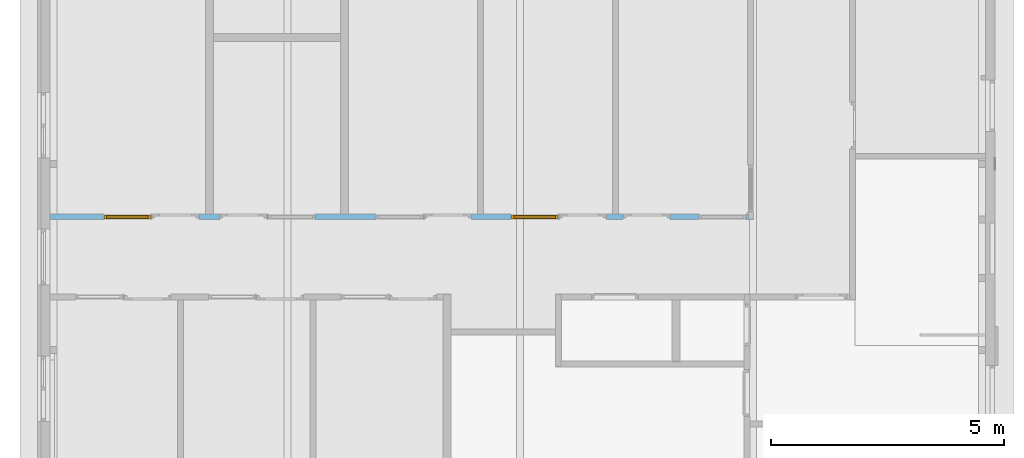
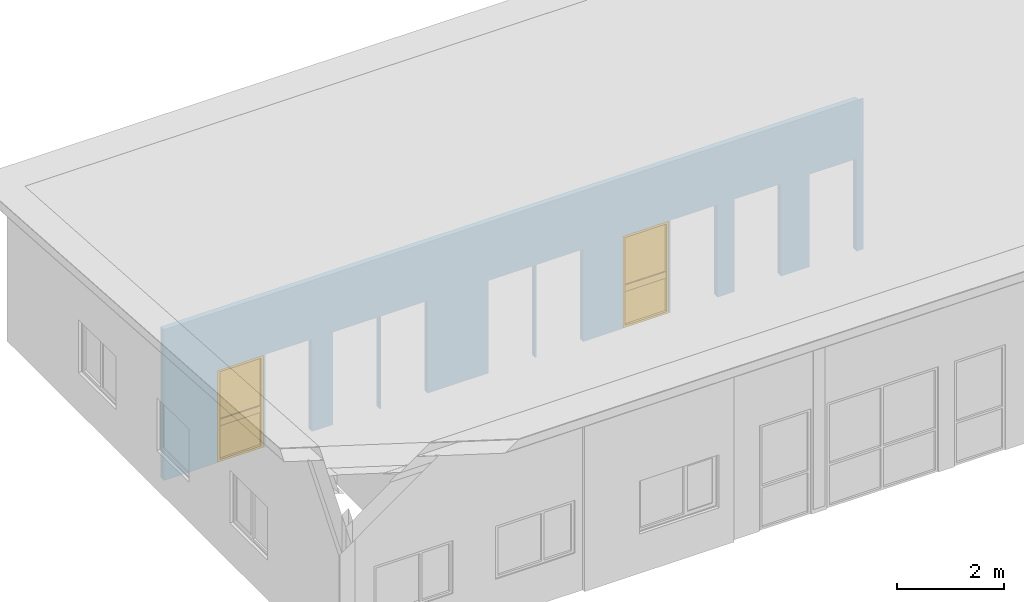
# One storey, part 17 of 37: 2 windows, 10 openings, plus 1 element that does not belong to this part.
"""IFC2X3 building model written with IfcOpenShell, lengths in millimetres."""

import ifcopenshell
import ifcopenshell.guid

model = None  # the IFC model being written
_history = None  # IfcOwnerHistory: only IFC2X3 demands one
_inside = {}  # id of a spatial element -> (the spatial element, [elements in it])
_under = {}  # id of a project, library or spatial element -> (it, [spatial elements below it])
_declared = {}  # id of a project -> (the project, [libraries it declares])
_typed = {}  # id of a type object -> (the type object, [elements of that type])
_made_of = {}  # id of a material, layer set ... -> (it, [elements and type objects made of it])


def new_model(schema):
    """Start an empty IFC model of exactly this schema.

    Asked for "IFC4X3", IfcOpenShell would pick the latest addendum, in which some entities
    have other attributes; the version numbers below select the first issue.
    IFC2X3 requires an IfcOwnerHistory on every rooted entity: one is made here for all.
    """
    global model, _history
    if schema == "IFC4X3":
        model = ifcopenshell.file(schema_version=(4, 3, 0, 0))
    else:
        model = ifcopenshell.file(schema=schema)
    _inside.clear()
    _under.clear()
    _declared.clear()
    _typed.clear()
    _made_of.clear()
    _history = None
    if model.schema == "IFC2X3":
        org = make("IfcOrganization", Name="unknown")
        user = make(
            "IfcPersonAndOrganization",
            ThePerson=make("IfcPerson", FamilyName="unknown"),
            TheOrganization=org,
        )
        app = make(
            "IfcApplication",
            ApplicationDeveloper=org,
            Version="unknown",
            ApplicationFullName="unknown",
            ApplicationIdentifier="unknown",
        )
        _history = make(
            "IfcOwnerHistory",
            OwningUser=user,
            OwningApplication=app,
            ChangeAction="ADDED",
            CreationDate=0,
        )
    return model


def make(cls, **values):
    """One entity of the class cls with the attributes given. An attribute that is None is left unset."""
    return model.create_entity(
        cls, **{name: value for name, value in values.items() if value is not None}
    )


def entity(cls, *values):
    """Any entity or typed value of the class cls, its attributes in the order of the schema. None: left unset."""
    e = model.create_entity(cls)
    for i, value in enumerate(values):
        if value is not None:
            e[i] = value
    return e


def rooted(cls, **values):
    """An entity with a GlobalId (a new one), such as an element, a storey or a relation."""
    return make(cls, GlobalId=ifcopenshell.guid.new(), OwnerHistory=_history, **values)


def si_unit(unit_type, name, prefix=None):
    """IfcSIUnit, for example si_unit("LENGTHUNIT", "METRE", prefix="MILLI")."""
    return make("IfcSIUnit", UnitType=unit_type, Prefix=prefix, Name=name)


def converted_unit(unit_type, name, factor, base, dimensions=None, offset=None):
    """IfcConversionBasedUnit, such as the inch: factor (a typed value) times the base unit."""
    return make(
        "IfcConversionBasedUnit"
        if offset is None
        else "IfcConversionBasedUnitWithOffset",
        ConversionOffset=offset,
        Dimensions=None
        if dimensions is None
        else entity("IfcDimensionalExponents", *dimensions),
        UnitType=unit_type,
        Name=name,
        ConversionFactor=make(
            "IfcMeasureWithUnit", ValueComponent=factor, UnitComponent=base
        ),
    )


def assignment(units):
    """IfcUnitAssignment: the units of a project."""
    return None if units is None else make("IfcUnitAssignment", Units=units)


def point(xyz):
    """IfcCartesianPoint."""
    return None if xyz is None else make("IfcCartesianPoint", Coordinates=xyz)


def direction(xyz):
    """IfcDirection."""
    return None if xyz is None else make("IfcDirection", DirectionRatios=xyz)


def frame(location, z_axis=None, x_axis=None):
    """IfcAxis2Placement3D, a coordinate frame: its origin and axes. An axis left out is left unset."""
    return make(
        "IfcAxis2Placement3D",
        Location=point(location),
        Axis=direction(z_axis),
        RefDirection=direction(x_axis),
    )


def frame_2d(location, x_axis=None):
    """IfcAxis2Placement2D, a coordinate frame in the plane: its origin and x axis."""
    return make(
        "IfcAxis2Placement2D", Location=point(location), RefDirection=direction(x_axis)
    )


def origin():
    """The frame at (0, 0, 0) with its axes left unset."""
    return frame((0.0, 0.0, 0.0))


def origin_with_axes():
    """The frame at (0, 0, 0) with the z axis (0, 0, 1) and the x axis (1, 0, 0) written out."""
    return frame((0.0, 0.0, 0.0), z_axis=(0.0, 0.0, 1.0), x_axis=(1.0, 0.0, 0.0))


def place(relative_to, where):
    """IfcLocalPlacement: puts the frame where relative to a parent placement (None: the world)."""
    return make(
        "IfcLocalPlacement", PlacementRelTo=relative_to, RelativePlacement=where
    )


def context(
    kind, dimensions, precision=None, world=None, true_north=None, identifier=None
):
    """IfcGeometricRepresentationContext, for example the 3D "Model" context."""
    return make(
        "IfcGeometricRepresentationContext",
        ContextIdentifier=identifier,
        ContextType=kind,
        CoordinateSpaceDimension=dimensions,
        Precision=precision,
        WorldCoordinateSystem=world,
        TrueNorth=true_north,
    )


def subcontext(parent, identifier, kind, view, scale=None):
    """IfcGeometricRepresentationSubContext, for example "Body" below "Model"."""
    return make(
        "IfcGeometricRepresentationSubContext",
        ContextIdentifier=identifier,
        ContextType=kind,
        ParentContext=parent,
        TargetScale=scale,
        TargetView=view,
    )


def project(units=None, contexts=None):
    """IfcProject with its units and contexts."""
    return rooted(
        "IfcProject",
        Name="project",
        RepresentationContexts=contexts,
        UnitsInContext=assignment(units),
    )


def spatial(cls, under=None, at=None, **own):
    """A site, building, storey or space (cls), placed at a placement, below another one or the project."""
    s = rooted(cls, ObjectPlacement=at, **own)
    if under is not None:
        _under.setdefault(under.id(), (under, []))[1].append(s)
    return s


def polyline(points):
    """IfcPolyline through the points."""
    return make("IfcPolyline", Points=[point(p) for p in points])


def profile(cls, at=None, kind="AREA", **sizes):
    """A parametric profile (cls). Its sizes go by their IFC names, for example OverallWidth=200.0."""
    return make(cls, ProfileType=kind, Position=at, **sizes)


def rectangle(**sizes):
    """IfcRectangleProfileDef."""
    return profile("IfcRectangleProfileDef", **sizes)


def outline(outer, holes=None, kind="AREA"):
    """IfcArbitraryClosedProfileDef: a profile drawn as a closed curve; with holes, ...WithVoids."""
    if holes is None:
        return make("IfcArbitraryClosedProfileDef", ProfileType=kind, OuterCurve=outer)
    return make(
        "IfcArbitraryProfileDefWithVoids",
        ProfileType=kind,
        OuterCurve=outer,
        InnerCurves=holes,
    )


def extrude(swept, where, along, depth):
    """IfcExtrudedAreaSolid: the profile swept, set in the frame where, extruded along a direction by depth."""
    return make(
        "IfcExtrudedAreaSolid",
        SweptArea=swept,
        Position=where,
        ExtrudedDirection=direction(along),
        Depth=depth,
    )


def clip(a, b, op="DIFFERENCE"):
    """IfcBooleanClippingResult: the solid a cut by the half space b."""
    return make(
        "IfcBooleanClippingResult", Operator=op, FirstOperand=a, SecondOperand=b
    )


def halfspace(plane, agree):
    """IfcHalfSpaceSolid: all space on one side of the plane z = 0 of the frame plane."""
    return make(
        "IfcHalfSpaceSolid",
        BaseSurface=make("IfcPlane", Position=plane),
        AgreementFlag=agree,
    )


def faces_of(points, faces, orient=None, outer=None):
    """IfcFace entities. A face is a list of loops; a loop is a list of indices into points, from 0.

    orient and outer hold one flag for each loop. By default every Orientation is true, the
    first loop of a face is its IfcFaceOuterBound and the others are IfcFaceBound.
    """
    made = []
    for i, loops in enumerate(faces):
        bounds = []
        for j, loop in enumerate(loops):
            is_outer = j == 0 if outer is None else outer[i][j]
            bounds.append(
                make(
                    "IfcFaceOuterBound" if is_outer else "IfcFaceBound",
                    Bound=make("IfcPolyLoop", Polygon=[points[k] for k in loop]),
                    Orientation=True if orient is None else orient[i][j],
                )
            )
        made.append(make("IfcFace", Bounds=bounds))
    return made


def faceted_brep(points, faces, orient=None, outer=None, voids=None):
    """IfcFacetedBrep: a solid bounded by flat faces; with voids (closed shells), ...WithVoids."""
    shared = [point(p) for p in points]
    hull = make("IfcClosedShell", CfsFaces=faces_of(shared, faces, orient, outer))
    if voids is None:
        return make("IfcFacetedBrep", Outer=hull)
    return make(
        "IfcFacetedBrepWithVoids",
        Outer=hull,
        Voids=[
            make(cls, CfsFaces=faces_of(shared, fs, o, b)) for cls, fs, o, b in voids
        ],
    )


def shape(context_of_items, identifier, shape_type, items):
    """IfcShapeRepresentation: the items that make up one representation, for example the "Body"."""
    return make(
        "IfcShapeRepresentation",
        ContextOfItems=context_of_items,
        RepresentationIdentifier=identifier,
        RepresentationType=shape_type,
        Items=items,
    )


def material(Name=None, Category=None):
    """IfcMaterial."""
    return make("IfcMaterial", Name=Name, Category=Category)


def layer(
    of_material, thickness, ventilated=None, Name=None, Category=None, Priority=None
):
    """IfcMaterialLayer: one layer of a wall or slab, of a material (None: an air gap)."""
    return make(
        "IfcMaterialLayer",
        Material=of_material,
        LayerThickness=thickness,
        IsVentilated=ventilated,
        Name=Name,
        Category=Category,
        Priority=Priority,
    )


def layer_set(layers, Name=None):
    """IfcMaterialLayerSet."""
    return make("IfcMaterialLayerSet", MaterialLayers=layers, LayerSetName=Name)


def layer_usage(for_layer_set, set_direction, sense, offset, extent=None):
    """IfcMaterialLayerSetUsage: how a layer set lies in its element."""
    return make(
        "IfcMaterialLayerSetUsage",
        ForLayerSet=for_layer_set,
        LayerSetDirection=set_direction,
        DirectionSense=sense,
        OffsetFromReferenceLine=offset,
        ReferenceExtent=extent,
    )


def made_of(thing, what):
    """Note that an element or type object is made of a material, layer set ...; save() writes the relation."""
    if what is not None:
        _made_of.setdefault(what.id(), (what, []))[1].append(thing)
    return thing


def type_object(cls, material=None, **own):
    """A type object (cls), such as IfcWallType, which elements share."""
    return made_of(rooted(cls, **own), material)


def element(
    cls,
    number,
    at=None,
    inside=None,
    cuts=None,
    type_object=None,
    material=None,
    context=None,
    identifier="Body",
    shape_type=None,
    held_by="IfcProductDefinitionShape",
    body=None,
    shapes=None,
    **own,
):
    """One element of the class cls, such as IfcWall. Its Tag is "e" and its number.

    at: its placement. inside: the storey or other place that contains it. cuts: it is an
    opening in that element (IfcRelVoidsElement). A single representation is given by context,
    identifier, shape_type and body (its items); several are given by shapes. held_by: the class
    of the entity that holds the representations. save() writes the other relations.
    """
    e = rooted(cls, Tag="e%d" % number, ObjectPlacement=at, **own)
    if body is not None:
        shapes = [shape(context, identifier, shape_type, body)]
    if shapes is not None:
        e.Representation = make(held_by, Representations=shapes)
    if inside is not None:
        _inside.setdefault(inside.id(), (inside, []))[1].append(e)
    if cuts is not None:
        rooted(
            "IfcRelVoidsElement", RelatingBuildingElement=cuts, RelatedOpeningElement=e
        )
    if type_object is not None:
        _typed.setdefault(type_object.id(), (type_object, []))[1].append(e)
    return made_of(e, material)


def fill(opening, filler):
    """IfcRelFillsElement: the door or window that sits in an opening."""
    return rooted(
        "IfcRelFillsElement",
        RelatingOpeningElement=opening,
        RelatedBuildingElement=filler,
    )


def aggregate(whole, parts):
    """IfcRelAggregates: a whole, such as a stair, and the parts it consists of."""
    return rooted("IfcRelAggregates", RelatingObject=whole, RelatedObjects=parts)


def save(model, path):
    """Write the relations noted so far, then the file.

    IfcRelAggregates (storeys below a building ...), IfcRelContainedInSpatialStructure (elements
    in a storey), IfcRelDefinesByType, IfcRelAssociatesMaterial and IfcRelDeclares: one each for
    every whole, place, type object, material and project.
    """
    for whole, parts in _under.values():
        aggregate(whole, parts)
    for where, things in _inside.values():
        rooted(
            "IfcRelContainedInSpatialStructure",
            RelatedElements=things,
            RelatingStructure=where,
        )
    for kind, things in _typed.values():
        rooted("IfcRelDefinesByType", RelatedObjects=things, RelatingType=kind)
    for what, things in _made_of.values():
        rooted("IfcRelAssociatesMaterial", RelatedObjects=things, RelatingMaterial=what)
    for by, libraries in _declared.values():
        rooted("IfcRelDeclares", RelatingContext=by, RelatedDefinitions=libraries)
    model.write(path)


model = new_model("IFC2X3")

# Units and contexts
model_context = context("Model", 3, precision=1e-05, world=origin())
plan_context = context("Plan", 3, precision=1e-05, world=origin())
body_context = subcontext(model_context, "Body", "Model", "MODEL_VIEW")
ifc_project = project(units=[si_unit("LENGTHUNIT", "METRE", prefix="MILLI"), converted_unit("PLANEANGLEUNIT", "DEGREE", entity("IfcPlaneAngleMeasure", 0.0174532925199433), si_unit("PLANEANGLEUNIT", "RADIAN"), dimensions=[0, 0, 0, 0, 0, 0, 0]), si_unit("AREAUNIT", "SQUARE_METRE"), si_unit("VOLUMEUNIT", "CUBIC_METRE")], contexts=[model_context, plan_context])

# Building, storey
building_placement = place(None, origin())
building = spatial("IfcBuilding", under=ifc_project, at=building_placement, Name="HEKF Administrasjonbygg", CompositionType="ELEMENT")
storey_placement = place(building_placement, frame((0.0, 0.0, 9900.0), z_axis=(0.0, 0.0, 1.0), x_axis=(1.0, 0.0, 0.0)))
storey = spatial("IfcBuildingStorey", under=building, at=storey_placement, Name="Plan 2", CompositionType="ELEMENT", Elevation=9900.0)

# Wall, openings, windows
ifc_material_1 = material(Name="gips")
ifc_layer_1 = layer(ifc_material_1, 13.0)
ifc_material_2 = material(Name="riegel stål 100")
ifc_layer_2 = layer(ifc_material_2, 100.0)
ifc_material_3 = material(Name="gips")
ifc_layer_3 = layer(ifc_material_3, 13.0)
ifc_layer_set = layer_set([ifc_layer_1, ifc_layer_2, ifc_layer_3])
ifc_layer_usage = layer_usage(ifc_layer_set, "AXIS2", "POSITIVE", 0.0)
wall_placement = place(storey_placement, frame((24887.0, -5075.0, 0.0), z_axis=(0.0, 0.0, 1.0), x_axis=(-1.0, 0.0, 0.0)))
wall = element("IfcWallStandardCase", 1, at=wall_placement, inside=storey, material=ifc_layer_usage, context=body_context, shape_type="Clipping", body=[
    clip(extrude(outline(polyline([(-113.0, 126.0), (-113.0, 113.0), (-13.0, 113.0), (-13.0, 13.0), (0.0, 13.0), (0.0, 0.0), (2774.0, 0.0), (2774.0, 13.0), (2787.0, 13.0), (2787.0, 0.0), (14987.00000000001, 0.0), (14987.00000000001, 126.0), (-113.0, 126.0)])), origin_with_axes(), (0.0, 0.0, 1.0), 3446.733333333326), halfspace(frame((2787.0, 0.0, 3438.333333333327), z_axis=(-9.402241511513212e-18, 0.06651901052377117, -0.9977851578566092), x_axis=(1.0, 0.0, 0.0)), True)),
])
opening_1_placement = place(wall_placement, frame((9293.284477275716, 0.0, 0.0), z_axis=(0.0, 1.0, 0.0), x_axis=(0.0, 0.0, 1.0)))
element("IfcOpeningElement", 2, at=opening_1_placement, cuts=wall, Name="Window opening", ObjectType="Opening", context=body_context, shape_type="SweptSolid", body=[
    extrude(rectangle(XDim=2110.0, YDim=1010.0, at=frame_2d((1055.0, 505.0), x_axis=(1.0, 0.0))), origin_with_axes(), (0.0, 0.0, 1.0), 126.0),
])
opening_2_placement = place(wall_placement, frame((6972.0, 0.0, 0.0), z_axis=(0.0, 1.0, 0.0), x_axis=(0.0, 0.0, 1.0)))
element("IfcOpeningElement", 3, at=opening_2_placement, cuts=wall, Name="Window opening", ObjectType="Opening", context=body_context, shape_type="SweptSolid", body=[
    extrude(rectangle(XDim=2110.0, YDim=1010.0, at=frame_2d((1055.0, 505.0), x_axis=(1.0, 0.0))), origin_with_axes(), (0.0, 0.0, 1.0), 126.0),
])
opening_3_placement = place(wall_placement, frame((12823.28447727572, 0.0, 0.0), z_axis=(0.0, 1.0, 0.0), x_axis=(0.0, 0.0, 1.0)))
opening_3 = element("IfcOpeningElement", 4, at=opening_3_placement, cuts=wall, Name="Window opening", ObjectType="Opening", context=body_context, shape_type="SweptSolid", body=[
    extrude(rectangle(XDim=2110.0, YDim=1010.0, at=frame_2d((1055.0, 505.0), x_axis=(1.0, 0.0))), origin_with_axes(), (0.0, 0.0, 1.0), 126.0),
])
opening_4_placement = place(wall_placement, frame((4072.0, 0.0, 0.0), z_axis=(0.0, 1.0, 0.0), x_axis=(0.0, 0.0, 1.0)))
opening_4 = element("IfcOpeningElement", 5, at=opening_4_placement, cuts=wall, Name="Window opening", ObjectType="Opening", context=body_context, shape_type="SweptSolid", body=[
    extrude(rectangle(XDim=2110.0, YDim=1010.0, at=frame_2d((1055.0, 505.0), x_axis=(1.0, 0.0))), origin_with_axes(), (0.0, 0.0, 1.0), 126.0),
])
opening_5_placement = place(wall_placement, frame((37.0, 0.0, 0.0), z_axis=(0.0, 1.0, 0.0), x_axis=(0.0, 0.0, 1.0)))
element("IfcOpeningElement", 6, at=opening_5_placement, cuts=wall, Name="Window opening", ObjectType="Opening", context=body_context, shape_type="SweptSolid", body=[
    extrude(rectangle(XDim=2110.0, YDim=1010.0, at=frame_2d((1055.0, 505.0), x_axis=(1.0, 0.0))), origin_with_axes(), (0.0, 0.0, 1.0), 126.0),
])
opening_6_placement = place(wall_placement, frame((11788.28447727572, 0.0, 0.0), z_axis=(0.0, 1.0, 0.0), x_axis=(0.0, 0.0, 1.0)))
element("IfcOpeningElement", 7, at=opening_6_placement, cuts=wall, Name="garasjeport med glassfelter:45x6", ObjectType="Opening", context=body_context, shape_type="SweptSolid", body=[
    extrude(rectangle(XDim=2110.0, YDim=1010.0, at=frame_2d((1055.0, 505.0), x_axis=(1.0, 0.0))), origin_with_axes(), (0.0, 0.0, 1.0), 126.0),
])
opening_7_placement = place(wall_placement, frame((10328.28447727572, 0.0, 0.0), z_axis=(0.0, 1.0, 0.0), x_axis=(0.0, 0.0, 1.0)))
element("IfcOpeningElement", 8, at=opening_7_placement, cuts=wall, Name="garasjeport med glassfelter:45x6", ObjectType="Opening", context=body_context, shape_type="SweptSolid", body=[
    extrude(rectangle(XDim=2110.0, YDim=1010.0, at=frame_2d((1055.0, 505.0), x_axis=(1.0, 0.0))), origin_with_axes(), (0.0, 0.0, 1.0), 126.0),
])
opening_8_placement = place(wall_placement, frame((5937.0, 0.0, 0.0), z_axis=(0.0, 1.0, 0.0), x_axis=(0.0, 0.0, 1.0)))
element("IfcOpeningElement", 9, at=opening_8_placement, cuts=wall, Name="garasjeport med glassfelter:45x6", ObjectType="Opening", context=body_context, shape_type="SweptSolid", body=[
    extrude(rectangle(XDim=2110.0, YDim=1010.0, at=frame_2d((1055.0, 505.0), x_axis=(1.0, 0.0))), origin_with_axes(), (0.0, 0.0, 1.0), 126.0),
])
opening_9_placement = place(wall_placement, frame((3037.0, 0.0, 0.0), z_axis=(0.0, 1.0, 0.0), x_axis=(0.0, 0.0, 1.0)))
element("IfcOpeningElement", 10, at=opening_9_placement, cuts=wall, Name="garasjeport med glassfelter:45x6", ObjectType="Opening", context=body_context, shape_type="SweptSolid", body=[
    extrude(rectangle(XDim=2110.0, YDim=1010.0, at=frame_2d((1055.0, 505.0), x_axis=(1.0, 0.0))), origin_with_axes(), (0.0, 0.0, 1.0), 126.0),
])
opening_10_placement = place(wall_placement, frame((1664.0, 0.0, 0.0), z_axis=(0.0, 1.0, 0.0), x_axis=(0.0, 0.0, 1.0)))
element("IfcOpeningElement", 11, at=opening_10_placement, cuts=wall, Name="garasjeport med glassfelter:45x6", ObjectType="Opening", context=body_context, shape_type="SweptSolid", body=[
    extrude(rectangle(XDim=2110.0, YDim=1010.0, at=frame_2d((1055.0, 505.0), x_axis=(1.0, 0.0))), origin_with_axes(), (0.0, 0.0, 1.0), 126.0),
])
ifc_material_4 = material()
window_style_1 = type_object("IfcWindowStyle", Name="IV106", ConstructionType="NOTDEFINED", OperationType="USERDEFINED", ParameterTakesPrecedence=False, Sizeable=False)
window_1_placement = place(opening_3_placement, frame((0.0, 0.0, 0.0), z_axis=(1.0, 0.0, 0.0), x_axis=(0.0, 1.0, 0.0)))
window_1 = element("IfcWindow", 12, at=window_1_placement, inside=storey, type_object=window_style_1, material=ifc_material_4, Name="IV106", OverallHeight=2110.0, OverallWidth=1010.0, context=body_context, shape_type="Brep", body=[
    faceted_brep([(1000.0, 19.99999999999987, 2100.0), (1000.0, 20.0, -2.816687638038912e-15), (950.0, 20.0, -2.816687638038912e-15), (950.0, 19.99999999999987, 2100.0), (1000.0, 112.0, 2.816687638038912e-15), (1000.0, 111.9999999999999, 2100.0), (950.0, 111.9999999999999, 2100.0), (950.0, 112.0, 2.816687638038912e-15), (1000.0, 20.0, -2.816687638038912e-15), (1000.0, 19.99999999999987, 2100.0), (1000.0, 111.9999999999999, 2100.0), (1000.0, 112.0, 2.816687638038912e-15), (950.0, 20.0, -2.816687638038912e-15), (1000.0, 20.0, -2.816687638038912e-15), (1000.0, 112.0, 2.816687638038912e-15), (950.0, 112.0, 2.816687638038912e-15), (950.0, 19.99999999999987, 2100.0), (950.0, 20.0, -2.816687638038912e-15), (950.0, 112.0, 2.816687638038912e-15), (950.0, 111.9999999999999, 2100.0), (1000.0, 19.99999999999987, 2100.0), (950.0, 19.99999999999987, 2100.0), (950.0, 111.9999999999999, 2100.0), (1000.0, 111.9999999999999, 2100.0)], [[[0, 1, 2, 3]], [[4, 5, 6, 7]], [[8, 9, 10, 11]], [[12, 13, 14, 15]], [[16, 17, 18, 19]], [[20, 21, 22, 23]]], orient=[[False], [False], [False], [False], [False], [False]]),
    faceted_brep([(60.0, 19.99999999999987, 2100.0), (60.0, 20.0, -2.816687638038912e-15), (10.0, 20.0, -2.816687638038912e-15), (10.0, 19.99999999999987, 2100.0), (60.0, 112.0, 2.816687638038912e-15), (60.0, 111.9999999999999, 2100.0), (10.0, 111.9999999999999, 2100.0), (10.0, 112.0, 2.816687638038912e-15), (60.0, 20.0, -2.816687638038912e-15), (60.0, 19.99999999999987, 2100.0), (60.0, 111.9999999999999, 2100.0), (60.0, 112.0, 2.816687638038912e-15), (10.0, 20.0, -2.816687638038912e-15), (60.0, 20.0, -2.816687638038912e-15), (60.0, 112.0, 2.816687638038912e-15), (10.0, 112.0, 2.816687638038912e-15), (10.0, 19.99999999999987, 2100.0), (10.0, 20.0, -2.816687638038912e-15), (10.0, 112.0, 2.816687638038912e-15), (10.0, 111.9999999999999, 2100.0), (60.0, 19.99999999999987, 2100.0), (10.0, 19.99999999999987, 2100.0), (10.0, 111.9999999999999, 2100.0), (60.0, 111.9999999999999, 2100.0)], [[[0, 1, 2, 3]], [[4, 5, 6, 7]], [[8, 9, 10, 11]], [[12, 13, 14, 15]], [[16, 17, 18, 19]], [[20, 21, 22, 23]]], orient=[[False], [False], [False], [False], [False], [False]]),
    faceted_brep([(950.0, 20.0, 50.0), (950.0, 20.0, -2.816687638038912e-15), (60.00000000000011, 20.0, -2.816687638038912e-15), (60.00000000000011, 20.0, 50.0), (950.0, 112.0, 2.816687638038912e-15), (950.0, 112.0, 50.00000000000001), (60.00000000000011, 112.0, 50.00000000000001), (60.00000000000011, 112.0, 2.816687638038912e-15), (950.0, 20.0, -2.816687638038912e-15), (950.0, 20.0, 50.0), (950.0, 112.0, 50.00000000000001), (950.0, 112.0, 2.816687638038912e-15), (60.00000000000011, 20.0, -2.816687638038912e-15), (950.0, 20.0, -2.816687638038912e-15), (950.0, 112.0, 2.816687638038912e-15), (60.00000000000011, 112.0, 2.816687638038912e-15), (60.00000000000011, 20.0, 50.0), (60.00000000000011, 20.0, -2.816687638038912e-15), (60.00000000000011, 112.0, 2.816687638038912e-15), (60.00000000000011, 112.0, 50.00000000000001), (950.0, 20.0, 50.0), (60.00000000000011, 20.0, 50.0), (60.00000000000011, 112.0, 50.00000000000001), (950.0, 112.0, 50.00000000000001)], [[[0, 1, 2, 3]], [[4, 5, 6, 7]], [[8, 9, 10, 11]], [[12, 13, 14, 15]], [[16, 17, 18, 19]], [[20, 21, 22, 23]]], orient=[[False], [False], [False], [False], [False], [False]]),
    faceted_brep([(950.0, 19.99999999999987, 2100.000000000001), (950.0, 19.99999999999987, 2050.000000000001), (60.00000000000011, 19.99999999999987, 2050.000000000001), (60.00000000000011, 19.99999999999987, 2100.000000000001), (950.0, 111.9999999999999, 2050.000000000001), (950.0, 111.9999999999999, 2100.000000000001), (60.00000000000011, 111.9999999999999, 2100.000000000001), (60.00000000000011, 111.9999999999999, 2050.000000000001), (950.0, 19.99999999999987, 2050.000000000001), (950.0, 19.99999999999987, 2100.000000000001), (950.0, 111.9999999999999, 2100.000000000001), (950.0, 111.9999999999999, 2050.000000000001), (60.00000000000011, 19.99999999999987, 2050.000000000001), (950.0, 19.99999999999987, 2050.000000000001), (950.0, 111.9999999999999, 2050.000000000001), (60.00000000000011, 111.9999999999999, 2050.000000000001), (60.00000000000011, 19.99999999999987, 2100.000000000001), (60.00000000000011, 19.99999999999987, 2050.000000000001), (60.00000000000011, 111.9999999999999, 2050.000000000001), (60.00000000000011, 111.9999999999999, 2100.000000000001), (950.0, 19.99999999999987, 2100.000000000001), (60.00000000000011, 19.99999999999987, 2100.000000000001), (60.00000000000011, 111.9999999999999, 2100.000000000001), (950.0, 111.9999999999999, 2100.000000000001)], [[[0, 1, 2, 3]], [[4, 5, 6, 7]], [[8, 9, 10, 11]], [[12, 13, 14, 15]], [[16, 17, 18, 19]], [[20, 21, 22, 23]]], orient=[[False], [False], [False], [False], [False], [False]]),
    faceted_brep([(950.0, 40.99999999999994, 950.0), (950.0, 40.99999999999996, 800.0), (60.00000000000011, 40.99999999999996, 800.0), (60.00000000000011, 40.99999999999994, 950.0), (950.0, 90.99999999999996, 800.0), (950.0, 90.99999999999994, 950.0), (60.00000000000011, 90.99999999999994, 950.0), (60.00000000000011, 90.99999999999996, 800.0), (950.0, 40.99999999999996, 800.0), (950.0, 40.99999999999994, 950.0), (950.0, 90.99999999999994, 950.0), (950.0, 90.99999999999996, 800.0), (60.00000000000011, 40.99999999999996, 800.0), (950.0, 40.99999999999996, 800.0), (950.0, 90.99999999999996, 800.0), (60.00000000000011, 90.99999999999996, 800.0), (60.00000000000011, 40.99999999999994, 950.0), (60.00000000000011, 40.99999999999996, 800.0), (60.00000000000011, 90.99999999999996, 800.0), (60.00000000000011, 90.99999999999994, 950.0), (950.0, 40.99999999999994, 950.0), (60.00000000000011, 40.99999999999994, 950.0), (60.00000000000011, 90.99999999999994, 950.0), (950.0, 90.99999999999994, 950.0)], [[[0, 1, 2, 3]], [[4, 5, 6, 7]], [[8, 9, 10, 11]], [[12, 13, 14, 15]], [[16, 17, 18, 19]], [[20, 21, 22, 23]]], orient=[[False], [False], [False], [False], [False], [False]]),
    faceted_brep([(950.0, 66.0, 50.0), (60.00000000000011, 66.0, 50.0), (60.00000000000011, 65.99999999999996, 800.0), (950.0, 65.99999999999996, 800.0), (950.0, 67.0, 50.0), (950.0, 66.99999999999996, 800.0), (60.00000000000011, 66.99999999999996, 800.0), (60.00000000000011, 67.0, 50.0), (950.0, 66.0, 50.0), (950.0, 67.0, 50.0), (60.00000000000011, 67.0, 50.0), (60.00000000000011, 66.0, 50.0), (60.00000000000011, 66.0, 50.0), (60.00000000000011, 67.0, 50.0), (60.00000000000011, 66.99999999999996, 800.0), (60.00000000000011, 65.99999999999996, 800.0), (60.00000000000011, 65.99999999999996, 800.0), (60.00000000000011, 66.99999999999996, 800.0), (950.0, 66.99999999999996, 800.0), (950.0, 65.99999999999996, 800.0), (950.0, 65.99999999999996, 800.0), (950.0, 66.99999999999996, 800.0), (950.0, 67.0, 50.0), (950.0, 66.0, 50.0)], [[[0, 1, 2, 3]], [[4, 5, 6, 7]], [[8, 9, 10, 11]], [[12, 13, 14, 15]], [[16, 17, 18, 19]], [[20, 21, 22, 23]]], orient=[[False], [False], [False], [False], [False], [False]]),
    faceted_brep([(950.0, 65.99999999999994, 950.0000000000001), (60.00000000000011, 65.99999999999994, 950.0000000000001), (60.00000000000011, 65.99999999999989, 2050.000000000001), (950.0, 65.99999999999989, 2050.000000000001), (950.0, 66.99999999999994, 950.0000000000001), (950.0, 66.99999999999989, 2050.000000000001), (60.00000000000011, 66.99999999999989, 2050.000000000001), (60.00000000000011, 66.99999999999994, 950.0000000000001), (950.0, 65.99999999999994, 950.0000000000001), (950.0, 66.99999999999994, 950.0000000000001), (60.00000000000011, 66.99999999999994, 950.0000000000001), (60.00000000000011, 65.99999999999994, 950.0000000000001), (60.00000000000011, 65.99999999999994, 950.0000000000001), (60.00000000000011, 66.99999999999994, 950.0000000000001), (60.00000000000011, 66.99999999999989, 2050.000000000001), (60.00000000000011, 65.99999999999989, 2050.000000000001), (60.00000000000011, 65.99999999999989, 2050.000000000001), (60.00000000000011, 66.99999999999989, 2050.000000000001), (950.0, 66.99999999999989, 2050.000000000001), (950.0, 65.99999999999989, 2050.000000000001), (950.0, 65.99999999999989, 2050.000000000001), (950.0, 66.99999999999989, 2050.000000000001), (950.0, 66.99999999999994, 950.0000000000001), (950.0, 65.99999999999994, 950.0000000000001)], [[[0, 1, 2, 3]], [[4, 5, 6, 7]], [[8, 9, 10, 11]], [[12, 13, 14, 15]], [[16, 17, 18, 19]], [[20, 21, 22, 23]]], orient=[[False], [False], [False], [False], [False], [False]]),
])
fill(opening_3, window_1)
ifc_material_5 = material()
window_style_2 = type_object("IfcWindowStyle", Name="IV103", ConstructionType="NOTDEFINED", OperationType="USERDEFINED", ParameterTakesPrecedence=False, Sizeable=False)
window_2_placement = place(opening_4_placement, frame((0.0, 0.0, 0.0), z_axis=(1.0, 0.0, 0.0), x_axis=(0.0, 1.0, 0.0)))
window_2 = element("IfcWindow", 13, at=window_2_placement, inside=storey, type_object=window_style_2, material=ifc_material_5, Name="IV103", OverallHeight=2110.0, OverallWidth=1010.0, context=body_context, shape_type="Brep", body=[
    faceted_brep([(1000.0, 19.99999999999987, 2100.0), (1000.0, 20.0, -2.816687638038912e-15), (950.0, 20.0, -2.816687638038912e-15), (950.0, 19.99999999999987, 2100.0), (1000.0, 112.0, 2.816687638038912e-15), (1000.0, 111.9999999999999, 2100.0), (950.0, 111.9999999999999, 2100.0), (950.0, 112.0, 2.816687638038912e-15), (1000.0, 20.0, -2.816687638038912e-15), (1000.0, 19.99999999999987, 2100.0), (1000.0, 111.9999999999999, 2100.0), (1000.0, 112.0, 2.816687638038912e-15), (950.0, 20.0, -2.816687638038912e-15), (1000.0, 20.0, -2.816687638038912e-15), (1000.0, 112.0, 2.816687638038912e-15), (950.0, 112.0, 2.816687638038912e-15), (950.0, 19.99999999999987, 2100.0), (950.0, 20.0, -2.816687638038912e-15), (950.0, 112.0, 2.816687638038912e-15), (950.0, 111.9999999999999, 2100.0), (1000.0, 19.99999999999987, 2100.0), (950.0, 19.99999999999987, 2100.0), (950.0, 111.9999999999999, 2100.0), (1000.0, 111.9999999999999, 2100.0)], [[[0, 1, 2, 3]], [[4, 5, 6, 7]], [[8, 9, 10, 11]], [[12, 13, 14, 15]], [[16, 17, 18, 19]], [[20, 21, 22, 23]]], orient=[[False], [False], [False], [False], [False], [False]]),
    faceted_brep([(60.0, 19.99999999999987, 2100.0), (60.0, 20.0, -2.816687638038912e-15), (10.0, 20.0, -2.816687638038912e-15), (10.0, 19.99999999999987, 2100.0), (60.0, 112.0, 2.816687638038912e-15), (60.0, 111.9999999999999, 2100.0), (10.0, 111.9999999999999, 2100.0), (10.0, 112.0, 2.816687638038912e-15), (60.0, 20.0, -2.816687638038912e-15), (60.0, 19.99999999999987, 2100.0), (60.0, 111.9999999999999, 2100.0), (60.0, 112.0, 2.816687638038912e-15), (10.0, 20.0, -2.816687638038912e-15), (60.0, 20.0, -2.816687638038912e-15), (60.0, 112.0, 2.816687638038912e-15), (10.0, 112.0, 2.816687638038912e-15), (10.0, 19.99999999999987, 2100.0), (10.0, 20.0, -2.816687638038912e-15), (10.0, 112.0, 2.816687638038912e-15), (10.0, 111.9999999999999, 2100.0), (60.0, 19.99999999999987, 2100.0), (10.0, 19.99999999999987, 2100.0), (10.0, 111.9999999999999, 2100.0), (60.0, 111.9999999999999, 2100.0)], [[[0, 1, 2, 3]], [[4, 5, 6, 7]], [[8, 9, 10, 11]], [[12, 13, 14, 15]], [[16, 17, 18, 19]], [[20, 21, 22, 23]]], orient=[[False], [False], [False], [False], [False], [False]]),
    faceted_brep([(950.0, 20.0, 50.0), (950.0, 20.0, -2.816687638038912e-15), (60.00000000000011, 20.0, -2.816687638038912e-15), (60.00000000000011, 20.0, 50.0), (950.0, 112.0, 2.816687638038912e-15), (950.0, 112.0, 50.00000000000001), (60.00000000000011, 112.0, 50.00000000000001), (60.00000000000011, 112.0, 2.816687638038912e-15), (950.0, 20.0, -2.816687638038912e-15), (950.0, 20.0, 50.0), (950.0, 112.0, 50.00000000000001), (950.0, 112.0, 2.816687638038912e-15), (60.00000000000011, 20.0, -2.816687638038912e-15), (950.0, 20.0, -2.816687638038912e-15), (950.0, 112.0, 2.816687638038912e-15), (60.00000000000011, 112.0, 2.816687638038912e-15), (60.00000000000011, 20.0, 50.0), (60.00000000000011, 20.0, -2.816687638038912e-15), (60.00000000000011, 112.0, 2.816687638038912e-15), (60.00000000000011, 112.0, 50.00000000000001), (950.0, 20.0, 50.0), (60.00000000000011, 20.0, 50.0), (60.00000000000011, 112.0, 50.00000000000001), (950.0, 112.0, 50.00000000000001)], [[[0, 1, 2, 3]], [[4, 5, 6, 7]], [[8, 9, 10, 11]], [[12, 13, 14, 15]], [[16, 17, 18, 19]], [[20, 21, 22, 23]]], orient=[[False], [False], [False], [False], [False], [False]]),
    faceted_brep([(950.0, 19.99999999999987, 2100.000000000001), (950.0, 19.99999999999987, 2050.000000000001), (60.00000000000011, 19.99999999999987, 2050.000000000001), (60.00000000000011, 19.99999999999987, 2100.000000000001), (950.0, 111.9999999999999, 2050.000000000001), (950.0, 111.9999999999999, 2100.000000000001), (60.00000000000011, 111.9999999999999, 2100.000000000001), (60.00000000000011, 111.9999999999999, 2050.000000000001), (950.0, 19.99999999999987, 2050.000000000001), (950.0, 19.99999999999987, 2100.000000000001), (950.0, 111.9999999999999, 2100.000000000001), (950.0, 111.9999999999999, 2050.000000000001), (60.00000000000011, 19.99999999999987, 2050.000000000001), (950.0, 19.99999999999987, 2050.000000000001), (950.0, 111.9999999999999, 2050.000000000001), (60.00000000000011, 111.9999999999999, 2050.000000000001), (60.00000000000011, 19.99999999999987, 2100.000000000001), (60.00000000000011, 19.99999999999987, 2050.000000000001), (60.00000000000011, 111.9999999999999, 2050.000000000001), (60.00000000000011, 111.9999999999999, 2100.000000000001), (950.0, 19.99999999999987, 2100.000000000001), (60.00000000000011, 19.99999999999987, 2100.000000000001), (60.00000000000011, 111.9999999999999, 2100.000000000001), (950.0, 111.9999999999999, 2100.000000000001)], [[[0, 1, 2, 3]], [[4, 5, 6, 7]], [[8, 9, 10, 11]], [[12, 13, 14, 15]], [[16, 17, 18, 19]], [[20, 21, 22, 23]]], orient=[[False], [False], [False], [False], [False], [False]]),
    faceted_brep([(950.0, 40.99999999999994, 950.0), (950.0, 40.99999999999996, 800.0), (60.00000000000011, 40.99999999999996, 800.0), (60.00000000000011, 40.99999999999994, 950.0), (950.0, 90.99999999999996, 800.0), (950.0, 90.99999999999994, 950.0), (60.00000000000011, 90.99999999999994, 950.0), (60.00000000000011, 90.99999999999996, 800.0), (950.0, 40.99999999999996, 800.0), (950.0, 40.99999999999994, 950.0), (950.0, 90.99999999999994, 950.0), (950.0, 90.99999999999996, 800.0), (60.00000000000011, 40.99999999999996, 800.0), (950.0, 40.99999999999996, 800.0), (950.0, 90.99999999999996, 800.0), (60.00000000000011, 90.99999999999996, 800.0), (60.00000000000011, 40.99999999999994, 950.0), (60.00000000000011, 40.99999999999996, 800.0), (60.00000000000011, 90.99999999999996, 800.0), (60.00000000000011, 90.99999999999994, 950.0), (950.0, 40.99999999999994, 950.0), (60.00000000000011, 40.99999999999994, 950.0), (60.00000000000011, 90.99999999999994, 950.0), (950.0, 90.99999999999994, 950.0)], [[[0, 1, 2, 3]], [[4, 5, 6, 7]], [[8, 9, 10, 11]], [[12, 13, 14, 15]], [[16, 17, 18, 19]], [[20, 21, 22, 23]]], orient=[[False], [False], [False], [False], [False], [False]]),
    faceted_brep([(950.0, 66.0, 50.0), (60.00000000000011, 66.0, 50.0), (60.00000000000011, 65.99999999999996, 800.0), (950.0, 65.99999999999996, 800.0), (950.0, 67.0, 50.0), (950.0, 66.99999999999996, 800.0), (60.00000000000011, 66.99999999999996, 800.0), (60.00000000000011, 67.0, 50.0), (950.0, 66.0, 50.0), (950.0, 67.0, 50.0), (60.00000000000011, 67.0, 50.0), (60.00000000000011, 66.0, 50.0), (60.00000000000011, 66.0, 50.0), (60.00000000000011, 67.0, 50.0), (60.00000000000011, 66.99999999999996, 800.0), (60.00000000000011, 65.99999999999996, 800.0), (60.00000000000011, 65.99999999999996, 800.0), (60.00000000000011, 66.99999999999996, 800.0), (950.0, 66.99999999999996, 800.0), (950.0, 65.99999999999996, 800.0), (950.0, 65.99999999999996, 800.0), (950.0, 66.99999999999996, 800.0), (950.0, 67.0, 50.0), (950.0, 66.0, 50.0)], [[[0, 1, 2, 3]], [[4, 5, 6, 7]], [[8, 9, 10, 11]], [[12, 13, 14, 15]], [[16, 17, 18, 19]], [[20, 21, 22, 23]]], orient=[[False], [False], [False], [False], [False], [False]]),
    faceted_brep([(950.0, 65.99999999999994, 950.0000000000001), (60.00000000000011, 65.99999999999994, 950.0000000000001), (60.00000000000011, 65.99999999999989, 2050.000000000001), (950.0, 65.99999999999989, 2050.000000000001), (950.0, 66.99999999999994, 950.0000000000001), (950.0, 66.99999999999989, 2050.000000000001), (60.00000000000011, 66.99999999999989, 2050.000000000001), (60.00000000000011, 66.99999999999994, 950.0000000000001), (950.0, 65.99999999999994, 950.0000000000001), (950.0, 66.99999999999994, 950.0000000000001), (60.00000000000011, 66.99999999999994, 950.0000000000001), (60.00000000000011, 65.99999999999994, 950.0000000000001), (60.00000000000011, 65.99999999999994, 950.0000000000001), (60.00000000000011, 66.99999999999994, 950.0000000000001), (60.00000000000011, 66.99999999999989, 2050.000000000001), (60.00000000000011, 65.99999999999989, 2050.000000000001), (60.00000000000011, 65.99999999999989, 2050.000000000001), (60.00000000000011, 66.99999999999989, 2050.000000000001), (950.0, 66.99999999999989, 2050.000000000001), (950.0, 65.99999999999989, 2050.000000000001), (950.0, 65.99999999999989, 2050.000000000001), (950.0, 66.99999999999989, 2050.000000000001), (950.0, 66.99999999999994, 950.0000000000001), (950.0, 65.99999999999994, 950.0000000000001)], [[[0, 1, 2, 3]], [[4, 5, 6, 7]], [[8, 9, 10, 11]], [[12, 13, 14, 15]], [[16, 17, 18, 19]], [[20, 21, 22, 23]]], orient=[[False], [False], [False], [False], [False], [False]]),
])
fill(opening_4, window_2)

save(model, "model.ifc")
